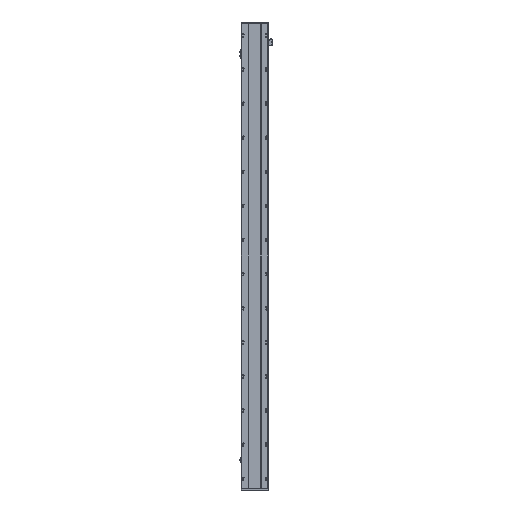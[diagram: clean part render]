
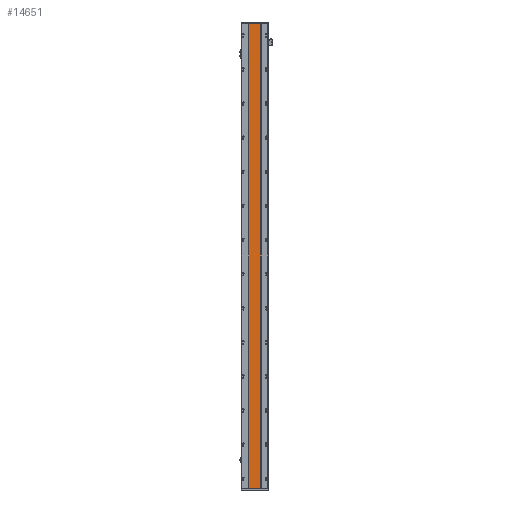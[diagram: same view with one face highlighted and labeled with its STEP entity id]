
A CAD part, front view. The second image highlights one B-rep face of the part: STEP entity #14651.
In plain terms, the highlighted planar face has unit normal (0, -1, 0).
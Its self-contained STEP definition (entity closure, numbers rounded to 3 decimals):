
#168 = CARTESIAN_POINT ( 'NONE',  ( 129.288, 16.9, 2944. ) ) ;
#219 = VERTEX_POINT ( 'NONE', #15122 ) ;
#2958 = DIRECTION ( 'NONE',  ( 0., 0., -1. ) ) ;
#3038 = DIRECTION ( 'NONE',  ( 0., 1., 0. ) ) ;
#3299 = EDGE_CURVE ( 'NONE', #13966, #219, #13387, .T. ) ;
#3715 = VECTOR ( 'NONE', #43324, 1000. ) ;
#3988 = CARTESIAN_POINT ( 'NONE',  ( 205.288, 16.9, 0. ) ) ;
#6045 = CARTESIAN_POINT ( 'NONE',  ( 129.288, 16.9, 0. ) ) ;
#6853 = FACE_OUTER_BOUND ( 'NONE', #9629, .T. ) ;
#8422 = VERTEX_POINT ( 'NONE', #20956 ) ;
#9004 = LINE ( 'NONE', #21401, #13560 ) ;
#9629 = EDGE_LOOP ( 'NONE', ( #30320, #33105, #36684, #27052 ) ) ;
#13387 = LINE ( 'NONE', #168, #3715 ) ;
#13560 = VECTOR ( 'NONE', #2958, 1000. ) ;
#13966 = VERTEX_POINT ( 'NONE', #24077 ) ;
#14651 = ADVANCED_FACE ( 'NONE', ( #6853 ), #17651, .F. ) ;
#15122 = CARTESIAN_POINT ( 'NONE',  ( 205.288, 16.9, 2944. ) ) ;
#17063 = LINE ( 'NONE', #22267, #42014 ) ;
#17651 = PLANE ( 'NONE',  #35189 ) ;
#18700 = LINE ( 'NONE', #3988, #41380 ) ;
#20956 = CARTESIAN_POINT ( 'NONE',  ( 205.288, 16.9, 0. ) ) ;
#21401 = CARTESIAN_POINT ( 'NONE',  ( 129.288, 16.9, 2944. ) ) ;
#22267 = CARTESIAN_POINT ( 'NONE',  ( 205.288, 16.9, 2944. ) ) ;
#23482 = EDGE_CURVE ( 'NONE', #219, #8422, #17063, .T. ) ;
#24077 = CARTESIAN_POINT ( 'NONE',  ( 129.288, 16.9, 2944. ) ) ;
#24237 = EDGE_CURVE ( 'NONE', #42880, #8422, #18700, .T. ) ;
#24657 = DIRECTION ( 'NONE',  ( -1., 0., 0. ) ) ;
#27052 = ORIENTED_EDGE ( 'NONE', *, *, #33713, .T. ) ;
#28766 = CARTESIAN_POINT ( 'NONE',  ( 205.288, 16.9, 2944. ) ) ;
#30320 = ORIENTED_EDGE ( 'NONE', *, *, #24237, .T. ) ;
#33105 = ORIENTED_EDGE ( 'NONE', *, *, #23482, .F. ) ;
#33161 = DIRECTION ( 'NONE',  ( 1., 0., 0. ) ) ;
#33713 = EDGE_CURVE ( 'NONE', #13966, #42880, #9004, .T. ) ;
#35189 = AXIS2_PLACEMENT_3D ( 'NONE', #28766, #3038, #24657 ) ;
#36684 = ORIENTED_EDGE ( 'NONE', *, *, #3299, .F. ) ;
#37295 = DIRECTION ( 'NONE',  ( 0., 0., -1. ) ) ;
#41380 = VECTOR ( 'NONE', #33161, 1000. ) ;
#42014 = VECTOR ( 'NONE', #37295, 1000. ) ;
#42880 = VERTEX_POINT ( 'NONE', #6045 ) ;
#43324 = DIRECTION ( 'NONE',  ( 1., 0., 0. ) ) ;
